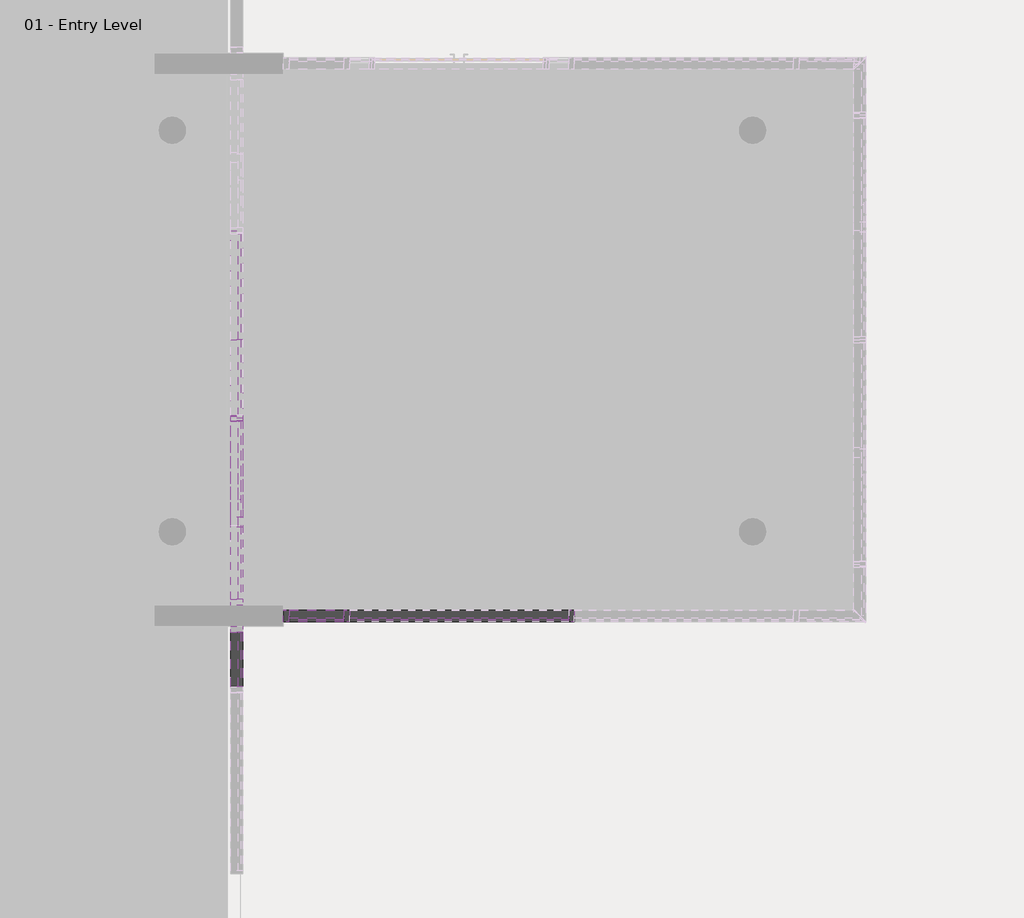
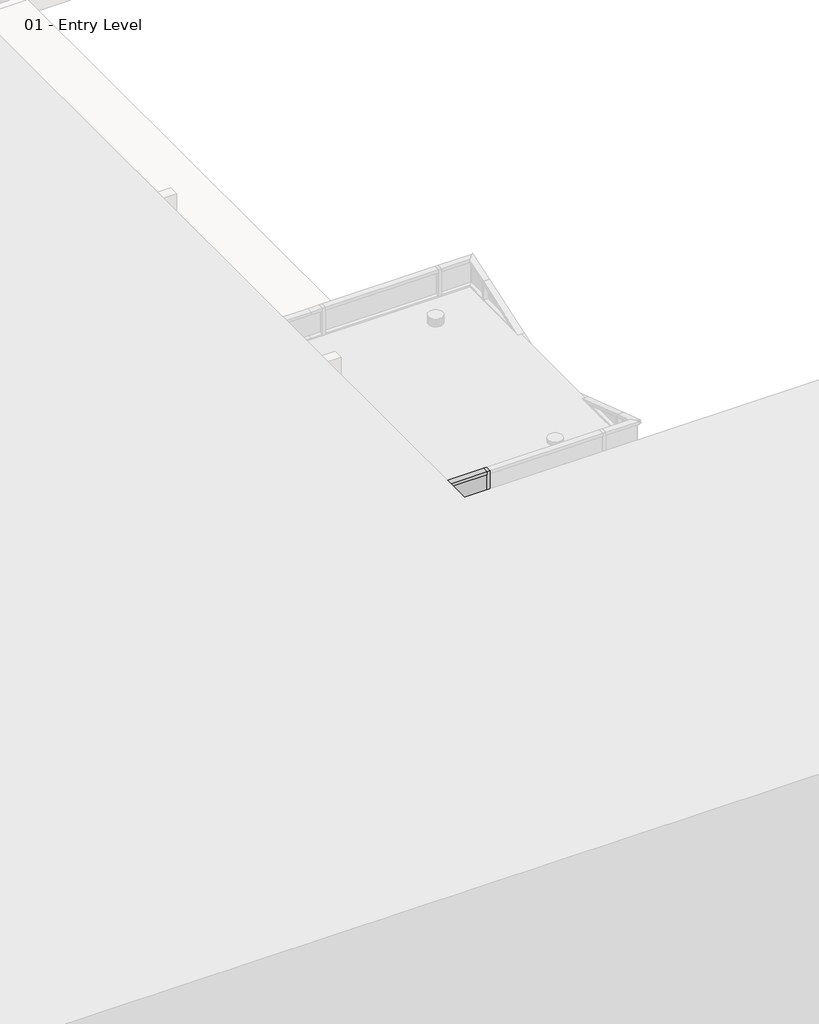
# One storey, part 13 of 34: 83 members, 41 plates.
"""IFC4 building model written with IfcOpenShell, lengths in millimetres."""

from ifc_helpers import new_model, si_unit, origin, place, context, project, spatial, transform, mapped, element, save
from components import member_2b49869a, member_75074519, member_4f18b2ac, member_7a85b04f, member_27fd6fac, member_2603a644, member_ab5e8816, member_dc06a31d, member_4c11d242, member_97c9a22f, member_29dce480, member_6e77e263, member_47bfaf8a, member_b2bde9e6, member_89bfb2f9, member_5aa65f11, member_b5354135, system_panel_glazed_f46199af, system_panel_glazed_10735cc6, system_panel_glazed_1b9d6098, system_panel_glazed_a2373be0, system_panel_glazed_70da479d, system_panel_glazed_6a6e56af, system_panel_glazed_a1864e1b, system_panel_glazed_99a26212, system_panel_glazed_a675a60c, system_panel_glazed_1068a10c, system_panel_glazed_a178916c, system_panel_glazed_0805a858, system_panel_glazed_439dd39a

model = new_model("IFC4")

# Units and contexts
model_context = context("Model", 3, world=origin())
ifc_project = project(units=[si_unit("LENGTHUNIT", "METRE", prefix="MILLI")], contexts=[model_context])

# Site, building, storey
site = spatial("IfcSite", under=ifc_project)
building = spatial("IfcBuilding", under=site)
storey = spatial("IfcBuildingStorey", under=building, Name="01 - Entry Level", Elevation=0.0)

# Members
placement = place(None, origin())
member_shape = member_2b49869a(model_context)
element("IfcMember", 1, ObjectType="Rectangular Mullion : 2.5\" x 5\" rectangular", at=placement, inside=storey, context=model_context, shape_type="MappedRepresentation", body=[
    mapped(member_shape, transform((17184.0207476, 18697.5, 9753.6), x_axis=(0.0, 1.0, 0.0), y_axis=(1.0, 0.0, 0.0), z_axis=(0.0, 0.0, -1.0))),
])
member_2_shape = member_75074519(model_context)
element("IfcMember", 2, ObjectType="Rectangular Mullion : 2.5\" x 5\" rectangular", at=placement, inside=storey, context=model_context, shape_type="MappedRepresentation", body=[
    mapped(member_2_shape, transform((17184.0207476, 16436.9, 9753.6), x_axis=(0.0, 1.0, 0.0), y_axis=(1.0, 0.0, 0.0), z_axis=(0.0, 0.0, -1.0))),
])
member_3_shape = member_4f18b2ac(model_context)
element("IfcMember", 3, ObjectType="Rectangular Mullion : 2.5\" x 5\" rectangular", at=placement, inside=storey, context=model_context, shape_type="MappedRepresentation", body=[
    mapped(member_3_shape, transform((17184.0207476, 18665.75, 10972.8), x_axis=(0.0, 0.0, 1.0), y_axis=(1.0, 0.0, 0.0), z_axis=(0.0, 1.0, 0.0))),
])
member_4_shape = member_7a85b04f(model_context)
element("IfcMember", 4, ObjectType="Rectangular Mullion : 2.5\" x 5\" rectangular", at=placement, inside=storey, context=model_context, shape_type="MappedRepresentation", body=[
    mapped(member_4_shape, transform((17184.0207476, 18665.75, 8534.4), x_axis=(0.0, 0.0, 1.0), y_axis=(1.0, 0.0, 0.0), z_axis=(0.0, 1.0, 0.0))),
])
element("IfcMember", 5, ObjectType="Rectangular Mullion : 2.5\" x 5\" rectangular", at=placement, inside=storey, context=model_context, shape_type="MappedRepresentation", body=[
    mapped(member_4_shape, transform((17184.0207476, 18665.75, 9753.6), x_axis=(0.0, 0.0, 1.0), y_axis=(1.0, 0.0, 0.0), z_axis=(0.0, 1.0, 0.0))),
])
element("IfcMember", 6, ObjectType="Rectangular Mullion : 2.5\" x 5\" rectangular", at=placement, inside=storey, context=model_context, shape_type="MappedRepresentation", body=[
    mapped(member_shape, transform((17184.0207476, 18697.5, 7315.2), x_axis=(0.0, 1.0, 0.0), y_axis=(1.0, 0.0, 0.0), z_axis=(0.0, 0.0, -1.0))),
])
element("IfcMember", 7, ObjectType="Rectangular Mullion : 2.5\" x 5\" rectangular", at=placement, inside=storey, context=model_context, shape_type="MappedRepresentation", body=[
    mapped(member_shape, transform((17184.0207476, 18697.5, 8534.4), x_axis=(0.0, 1.0, 0.0), y_axis=(1.0, 0.0, 0.0), z_axis=(0.0, 0.0, -1.0))),
])
member_5_shape = member_27fd6fac(model_context)
element("IfcMember", 8, ObjectType="Rectangular Mullion : 2.5\" x 5\" rectangular", at=placement, inside=storey, context=model_context, shape_type="MappedRepresentation", body=[
    mapped(member_5_shape, transform((17184.0207476, 19548.4, 6637.4207436), x_axis=(0.0, 0.3162277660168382, -0.9486832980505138), y_axis=(1.0, 0.0, 0.0), z_axis=(0.0, -0.9486832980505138, -0.3162277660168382))),
])
member_6_shape = member_2603a644(model_context)
element("IfcMember", 9, ObjectType="Rectangular Mullion : 2.5\" x 5\" rectangular", at=placement, inside=storey, context=model_context, shape_type="MappedRepresentation", body=[
    mapped(member_6_shape, transform((17184.0207476, 18697.5, 6921.0540769), x_axis=(0.0, -0.31622776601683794, -0.9486832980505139), y_axis=(1.0, 0.0, 0.0), z_axis=(0.0, -0.9486832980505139, 0.31622776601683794))),
])
member_7_shape = member_ab5e8816(model_context)
element("IfcMember", 10, ObjectType="Rectangular Mullion : 2.5\" x 5\" rectangular", at=placement, inside=storey, context=model_context, shape_type="MappedRepresentation", body=[
    mapped(member_7_shape, transform((17184.0207476, 17515.0622308, 7315.2), x_axis=(0.0, -0.31622776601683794, -0.9486832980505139), y_axis=(1.0, 0.0, 0.0), z_axis=(0.0, -0.9486832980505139, 0.31622776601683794))),
])
member_8_shape = member_dc06a31d(model_context)
element("IfcMember", 11, ObjectType="Rectangular Mullion : 2.5\" x 5\" rectangular", at=placement, inside=storey, context=model_context, shape_type="MappedRepresentation", body=[
    mapped(member_8_shape, transform((17184.0207476, 18665.75, 7315.2), x_axis=(0.0, 0.0, 1.0), y_axis=(1.0, 0.0, 0.0), z_axis=(0.0, 1.0, 0.0))),
])
member_9_shape = member_4c11d242(model_context)
element("IfcMember", 12, ObjectType="Rectangular Mullion : 2.5\" x 5\" rectangular", at=placement, inside=storey, context=model_context, shape_type="MappedRepresentation", body=[
    mapped(member_9_shape, transform((17184.0207476, 18697.5, 6921.0540769), x_axis=(0.0, 1.0, 0.0), y_axis=(1.0, 0.0, 0.0), z_axis=(0.0, 0.0, -1.0))),
])
element("IfcMember", 13, ObjectType="Rectangular Mullion : 2.5\" x 5\" rectangular", at=placement, inside=storey, context=model_context, shape_type="MappedRepresentation", body=[
    mapped(member_2_shape, transform((17184.0207476, 16436.9, 4876.8), x_axis=(0.0, 1.0, 0.0), y_axis=(1.0, 0.0, 0.0), z_axis=(0.0, 0.0, -1.0))),
])
element("IfcMember", 14, ObjectType="Rectangular Mullion : 2.5\" x 5\" rectangular", at=placement, inside=storey, context=model_context, shape_type="MappedRepresentation", body=[
    mapped(member_2_shape, transform((17184.0207476, 16436.9, 6096.0), x_axis=(0.0, 1.0, 0.0), y_axis=(1.0, 0.0, 0.0), z_axis=(0.0, 0.0, -1.0))),
])
element("IfcMember", 15, ObjectType="Rectangular Mullion : 2.5\" x 5\" rectangular", at=placement, inside=storey, context=model_context, shape_type="MappedRepresentation", body=[
    mapped(member_2_shape, transform((17184.0207476, 16436.9, 7315.2), x_axis=(0.0, 1.0, 0.0), y_axis=(1.0, 0.0, 0.0), z_axis=(0.0, 0.0, -1.0))),
])
element("IfcMember", 16, ObjectType="Rectangular Mullion : 2.5\" x 5\" rectangular", at=placement, inside=storey, context=model_context, shape_type="MappedRepresentation", body=[
    mapped(member_2_shape, transform((17184.0207476, 16436.9, 8534.4), x_axis=(0.0, 1.0, 0.0), y_axis=(1.0, 0.0, 0.0), z_axis=(0.0, 0.0, -1.0))),
])
element("IfcMember", 17, ObjectType="Rectangular Mullion : 2.5\" x 5\" rectangular", at=placement, inside=storey, context=model_context, shape_type="MappedRepresentation", body=[
    mapped(member_2_shape, transform((17184.0207476, 16665.5, 9753.6), x_axis=(0.0, -1.0, 0.0), y_axis=(1.0, 0.0, 0.0), z_axis=(0.0, 0.0, 1.0))),
])
member_10_shape = member_97c9a22f(model_context)
element("IfcMember", 18, ObjectType="Rectangular Mullion : 2.5\" x 5\" rectangular", at=placement, inside=storey, context=model_context, shape_type="MappedRepresentation", body=[
    mapped(member_10_shape, transform((17184.0207476, 16665.5, 8534.4), x_axis=(0.0, -1.0, 0.0), y_axis=(1.0, 0.0, 0.0), z_axis=(0.0, 0.0, 1.0))),
])
member_11_shape = member_29dce480(model_context)
element("IfcMember", 19, ObjectType="Rectangular Mullion : 2.5\" x 5\" rectangular", at=placement, inside=storey, context=model_context, shape_type="MappedRepresentation", body=[
    mapped(member_11_shape, transform((17184.0207476, 16373.4, 1219.2), x_axis=(0.0, 0.0, 1.0), y_axis=(1.0, 0.0, 0.0), z_axis=(0.0, 1.0, 0.0))),
])
element("IfcMember", 20, ObjectType="Rectangular Mullion : 2.5\" x 5\" rectangular", at=placement, inside=storey, context=model_context, shape_type="MappedRepresentation", body=[
    mapped(member_11_shape, transform((17184.0207476, 16373.4, 2438.4), x_axis=(0.0, 0.0, 1.0), y_axis=(1.0, 0.0, 0.0), z_axis=(0.0, 1.0, 0.0))),
])
element("IfcMember", 21, ObjectType="Rectangular Mullion : 2.5\" x 5\" rectangular", at=placement, inside=storey, context=model_context, shape_type="MappedRepresentation", body=[
    mapped(member_11_shape, transform((17184.0207476, 16373.4, 3657.6), x_axis=(0.0, 0.0, 1.0), y_axis=(1.0, 0.0, 0.0), z_axis=(0.0, 1.0, 0.0))),
])
element("IfcMember", 22, ObjectType="Rectangular Mullion : 2.5\" x 5\" rectangular", at=placement, inside=storey, context=model_context, shape_type="MappedRepresentation", body=[
    mapped(member_11_shape, transform((17184.0207476, 16373.4, 4876.8), x_axis=(0.0, 0.0, 1.0), y_axis=(1.0, 0.0, 0.0), z_axis=(0.0, 1.0, 0.0))),
])
element("IfcMember", 23, ObjectType="Rectangular Mullion : 2.5\" x 5\" rectangular", at=placement, inside=storey, context=model_context, shape_type="MappedRepresentation", body=[
    mapped(member_11_shape, transform((17184.0207476, 16373.4, 6096.0), x_axis=(0.0, 0.0, 1.0), y_axis=(1.0, 0.0, 0.0), z_axis=(0.0, 1.0, 0.0))),
])
element("IfcMember", 24, ObjectType="Rectangular Mullion : 2.5\" x 5\" rectangular", at=placement, inside=storey, context=model_context, shape_type="MappedRepresentation", body=[
    mapped(member_11_shape, transform((17184.0207476, 16373.4, 7315.2), x_axis=(0.0, 0.0, 1.0), y_axis=(1.0, 0.0, 0.0), z_axis=(0.0, 1.0, 0.0))),
])
element("IfcMember", 25, ObjectType="Rectangular Mullion : 2.5\" x 5\" rectangular", at=placement, inside=storey, context=model_context, shape_type="MappedRepresentation", body=[
    mapped(member_11_shape, transform((17184.0207476, 16373.4, 8534.4), x_axis=(0.0, 0.0, 1.0), y_axis=(1.0, 0.0, 0.0), z_axis=(0.0, 1.0, 0.0))),
])
element("IfcMember", 26, ObjectType="Rectangular Mullion : 2.5\" x 5\" rectangular", at=placement, inside=storey, context=model_context, shape_type="MappedRepresentation", body=[
    mapped(member_11_shape, transform((17184.0207476, 16373.4, 9753.6), x_axis=(0.0, 0.0, 1.0), y_axis=(1.0, 0.0, 0.0), z_axis=(0.0, 1.0, 0.0))),
])
member_12_shape = member_6e77e263(model_context)
element("IfcMember", 27, ObjectType="Rectangular Mullion : 2.5\" x 5\" rectangular", at=placement, inside=storey, context=model_context, shape_type="MappedRepresentation", body=[
    mapped(member_12_shape, transform((18379.5615197, 16551.2, 0.0), x_axis=(1.0, 0.0, 0.0), y_axis=(0.0, -1.0, 0.0), z_axis=(0.0, 0.0, -1.0))),
])
element("IfcMember", 28, ObjectType="Rectangular Mullion : 2.5\" x 5\" rectangular", at=placement, inside=storey, context=model_context, shape_type="MappedRepresentation", body=[
    mapped(member_12_shape, transform((20817.9615197, 16551.2, 0.0), x_axis=(1.0, 0.0, 0.0), y_axis=(0.0, -1.0, 0.0), z_axis=(0.0, 0.0, -1.0))),
])
element("IfcMember", 29, ObjectType="Rectangular Mullion : 2.5\" x 5\" rectangular", at=placement, inside=storey, context=model_context, shape_type="MappedRepresentation", body=[
    mapped(member_12_shape, transform((18379.5615197, 16551.2, 609.6), x_axis=(1.0, 0.0, 0.0), y_axis=(0.0, -1.0, 0.0), z_axis=(0.0, 0.0, -1.0))),
])
element("IfcMember", 30, ObjectType="Rectangular Mullion : 2.5\" x 5\" rectangular", at=placement, inside=storey, context=model_context, shape_type="MappedRepresentation", body=[
    mapped(member_12_shape, transform((20817.9615197, 16551.2, 609.6), x_axis=(1.0, 0.0, 0.0), y_axis=(0.0, -1.0, 0.0), z_axis=(0.0, 0.0, -1.0))),
])
element("IfcMember", 31, ObjectType="Rectangular Mullion : 2.5\" x 5\" rectangular", at=placement, inside=storey, context=model_context, shape_type="MappedRepresentation", body=[
    mapped(member_12_shape, transform((18379.5615197, 16551.2, 1219.2), x_axis=(1.0, 0.0, 0.0), y_axis=(0.0, -1.0, 0.0), z_axis=(0.0, 0.0, -1.0))),
])
element("IfcMember", 32, ObjectType="Rectangular Mullion : 2.5\" x 5\" rectangular", at=placement, inside=storey, context=model_context, shape_type="MappedRepresentation", body=[
    mapped(member_12_shape, transform((20817.9615197, 16551.2, 1219.2), x_axis=(1.0, 0.0, 0.0), y_axis=(0.0, -1.0, 0.0), z_axis=(0.0, 0.0, -1.0))),
])
element("IfcMember", 33, ObjectType="Rectangular Mullion : 2.5\" x 5\" rectangular", at=placement, inside=storey, context=model_context, shape_type="MappedRepresentation", body=[
    mapped(member_12_shape, transform((18379.5615197, 16551.2, 1828.8), x_axis=(1.0, 0.0, 0.0), y_axis=(0.0, -1.0, 0.0), z_axis=(0.0, 0.0, -1.0))),
])
element("IfcMember", 34, ObjectType="Rectangular Mullion : 2.5\" x 5\" rectangular", at=placement, inside=storey, context=model_context, shape_type="MappedRepresentation", body=[
    mapped(member_12_shape, transform((20817.9615197, 16551.2, 1828.8), x_axis=(1.0, 0.0, 0.0), y_axis=(0.0, -1.0, 0.0), z_axis=(0.0, 0.0, -1.0))),
])
element("IfcMember", 35, ObjectType="Rectangular Mullion : 2.5\" x 5\" rectangular", at=placement, inside=storey, context=model_context, shape_type="MappedRepresentation", body=[
    mapped(member_12_shape, transform((18379.5615197, 16551.2, 2438.4), x_axis=(1.0, 0.0, 0.0), y_axis=(0.0, -1.0, 0.0), z_axis=(0.0, 0.0, -1.0))),
])
element("IfcMember", 36, ObjectType="Rectangular Mullion : 2.5\" x 5\" rectangular", at=placement, inside=storey, context=model_context, shape_type="MappedRepresentation", body=[
    mapped(member_12_shape, transform((20817.9615197, 16551.2, 2438.4), x_axis=(1.0, 0.0, 0.0), y_axis=(0.0, -1.0, 0.0), z_axis=(0.0, 0.0, -1.0))),
])
element("IfcMember", 37, ObjectType="Rectangular Mullion : 2.5\" x 5\" rectangular", at=placement, inside=storey, context=model_context, shape_type="MappedRepresentation", body=[
    mapped(member_12_shape, transform((18379.5615197, 16551.2, 3048.0), x_axis=(1.0, 0.0, 0.0), y_axis=(0.0, -1.0, 0.0), z_axis=(0.0, 0.0, -1.0))),
])
element("IfcMember", 38, ObjectType="Rectangular Mullion : 2.5\" x 5\" rectangular", at=placement, inside=storey, context=model_context, shape_type="MappedRepresentation", body=[
    mapped(member_12_shape, transform((20817.9615197, 16551.2, 3048.0), x_axis=(1.0, 0.0, 0.0), y_axis=(0.0, -1.0, 0.0), z_axis=(0.0, 0.0, -1.0))),
])
element("IfcMember", 39, ObjectType="Rectangular Mullion : 2.5\" x 5\" rectangular", at=placement, inside=storey, context=model_context, shape_type="MappedRepresentation", body=[
    mapped(member_12_shape, transform((18379.5615197, 16551.2, 3657.6), x_axis=(1.0, 0.0, 0.0), y_axis=(0.0, -1.0, 0.0), z_axis=(0.0, 0.0, -1.0))),
])
element("IfcMember", 40, ObjectType="Rectangular Mullion : 2.5\" x 5\" rectangular", at=placement, inside=storey, context=model_context, shape_type="MappedRepresentation", body=[
    mapped(member_12_shape, transform((18379.5615197, 16551.2, 4267.2), x_axis=(1.0, 0.0, 0.0), y_axis=(0.0, -1.0, 0.0), z_axis=(0.0, 0.0, -1.0))),
])
element("IfcMember", 41, ObjectType="Rectangular Mullion : 2.5\" x 5\" rectangular", at=placement, inside=storey, context=model_context, shape_type="MappedRepresentation", body=[
    mapped(member_12_shape, transform((18379.5615197, 16551.2, 4876.8), x_axis=(1.0, 0.0, 0.0), y_axis=(0.0, -1.0, 0.0), z_axis=(0.0, 0.0, -1.0))),
])
element("IfcMember", 42, ObjectType="Rectangular Mullion : 2.5\" x 5\" rectangular", at=placement, inside=storey, context=model_context, shape_type="MappedRepresentation", body=[
    mapped(member_12_shape, transform((18379.5615197, 16551.2, 5486.4), x_axis=(1.0, 0.0, 0.0), y_axis=(0.0, -1.0, 0.0), z_axis=(0.0, 0.0, -1.0))),
])
element("IfcMember", 43, ObjectType="Rectangular Mullion : 2.5\" x 5\" rectangular", at=placement, inside=storey, context=model_context, shape_type="MappedRepresentation", body=[
    mapped(member_12_shape, transform((18379.5615197, 16551.2, 6096.0), x_axis=(1.0, 0.0, 0.0), y_axis=(0.0, -1.0, 0.0), z_axis=(0.0, 0.0, -1.0))),
])
element("IfcMember", 44, ObjectType="Rectangular Mullion : 2.5\" x 5\" rectangular", at=placement, inside=storey, context=model_context, shape_type="MappedRepresentation", body=[
    mapped(member_12_shape, transform((20817.9615197, 16551.2, 3657.6), x_axis=(1.0, 0.0, 0.0), y_axis=(0.0, -1.0, 0.0), z_axis=(0.0, 0.0, -1.0))),
])
element("IfcMember", 45, ObjectType="Rectangular Mullion : 2.5\" x 5\" rectangular", at=placement, inside=storey, context=model_context, shape_type="MappedRepresentation", body=[
    mapped(member_12_shape, transform((20817.9615197, 16551.2, 4267.2), x_axis=(1.0, 0.0, 0.0), y_axis=(0.0, -1.0, 0.0), z_axis=(0.0, 0.0, -1.0))),
])
element("IfcMember", 46, ObjectType="Rectangular Mullion : 2.5\" x 5\" rectangular", at=placement, inside=storey, context=model_context, shape_type="MappedRepresentation", body=[
    mapped(member_12_shape, transform((20817.9615197, 16551.2, 4876.8), x_axis=(1.0, 0.0, 0.0), y_axis=(0.0, -1.0, 0.0), z_axis=(0.0, 0.0, -1.0))),
])
element("IfcMember", 47, ObjectType="Rectangular Mullion : 2.5\" x 5\" rectangular", at=placement, inside=storey, context=model_context, shape_type="MappedRepresentation", body=[
    mapped(member_12_shape, transform((20817.9615197, 16551.2, 5486.4), x_axis=(1.0, 0.0, 0.0), y_axis=(0.0, -1.0, 0.0), z_axis=(0.0, 0.0, -1.0))),
])
element("IfcMember", 48, ObjectType="Rectangular Mullion : 2.5\" x 5\" rectangular", at=placement, inside=storey, context=model_context, shape_type="MappedRepresentation", body=[
    mapped(member_12_shape, transform((20817.9615197, 16551.2, 6096.0), x_axis=(1.0, 0.0, 0.0), y_axis=(0.0, -1.0, 0.0), z_axis=(0.0, 0.0, -1.0))),
])
member_13_shape = member_47bfaf8a(model_context)
element("IfcMember", 49, ObjectType="Rectangular Mullion : 2.5\" x 5\" rectangular", at=placement, inside=storey, context=model_context, shape_type="MappedRepresentation", body=[
    mapped(member_13_shape, transform((17688.9115197, 16551.2, 609.6), x_axis=(-1.0, 0.0, 0.0), y_axis=(0.0, -1.0, 0.0), z_axis=(0.0, 0.0, 1.0))),
])
element("IfcMember", 50, ObjectType="Rectangular Mullion : 2.5\" x 5\" rectangular", at=placement, inside=storey, context=model_context, shape_type="MappedRepresentation", body=[
    mapped(member_13_shape, transform((17688.9115197, 16551.2, 1219.2), x_axis=(-1.0, 0.0, 0.0), y_axis=(0.0, -1.0, 0.0), z_axis=(0.0, 0.0, 1.0))),
])
element("IfcMember", 51, ObjectType="Rectangular Mullion : 2.5\" x 5\" rectangular", at=placement, inside=storey, context=model_context, shape_type="MappedRepresentation", body=[
    mapped(member_13_shape, transform((17688.9115197, 16551.2, 1828.8), x_axis=(-1.0, 0.0, 0.0), y_axis=(0.0, -1.0, 0.0), z_axis=(0.0, 0.0, 1.0))),
])
element("IfcMember", 52, ObjectType="Rectangular Mullion : 2.5\" x 5\" rectangular", at=placement, inside=storey, context=model_context, shape_type="MappedRepresentation", body=[
    mapped(member_13_shape, transform((17688.9115197, 16551.2, 2438.4), x_axis=(-1.0, 0.0, 0.0), y_axis=(0.0, -1.0, 0.0), z_axis=(0.0, 0.0, 1.0))),
])
element("IfcMember", 53, ObjectType="Rectangular Mullion : 2.5\" x 5\" rectangular", at=placement, inside=storey, context=model_context, shape_type="MappedRepresentation", body=[
    mapped(member_13_shape, transform((17688.9115197, 16551.2, 3048.0), x_axis=(-1.0, 0.0, 0.0), y_axis=(0.0, -1.0, 0.0), z_axis=(0.0, 0.0, 1.0))),
])
element("IfcMember", 54, ObjectType="Rectangular Mullion : 2.5\" x 5\" rectangular", at=placement, inside=storey, context=model_context, shape_type="MappedRepresentation", body=[
    mapped(member_13_shape, transform((17688.9115197, 16551.2, 3657.6), x_axis=(-1.0, 0.0, 0.0), y_axis=(0.0, -1.0, 0.0), z_axis=(0.0, 0.0, 1.0))),
])
element("IfcMember", 55, ObjectType="Rectangular Mullion : 2.5\" x 5\" rectangular", at=placement, inside=storey, context=model_context, shape_type="MappedRepresentation", body=[
    mapped(member_13_shape, transform((17688.9115197, 16551.2, 4267.2), x_axis=(-1.0, 0.0, 0.0), y_axis=(0.0, -1.0, 0.0), z_axis=(0.0, 0.0, 1.0))),
])
element("IfcMember", 56, ObjectType="Rectangular Mullion : 2.5\" x 5\" rectangular", at=placement, inside=storey, context=model_context, shape_type="MappedRepresentation", body=[
    mapped(member_13_shape, transform((17688.9115197, 16551.2, 4876.8), x_axis=(-1.0, 0.0, 0.0), y_axis=(0.0, -1.0, 0.0), z_axis=(0.0, 0.0, 1.0))),
])
element("IfcMember", 57, ObjectType="Rectangular Mullion : 2.5\" x 5\" rectangular", at=placement, inside=storey, context=model_context, shape_type="MappedRepresentation", body=[
    mapped(member_13_shape, transform((17688.9115197, 16551.2, 5486.4), x_axis=(-1.0, 0.0, 0.0), y_axis=(0.0, -1.0, 0.0), z_axis=(0.0, 0.0, 1.0))),
])
element("IfcMember", 58, ObjectType="Rectangular Mullion : 2.5\" x 5\" rectangular", at=placement, inside=storey, context=model_context, shape_type="MappedRepresentation", body=[
    mapped(member_13_shape, transform((17688.9115197, 16551.2, 6096.0), x_axis=(-1.0, 0.0, 0.0), y_axis=(0.0, -1.0, 0.0), z_axis=(0.0, 0.0, 1.0))),
])
element("IfcMember", 59, ObjectType="Rectangular Mullion : 2.5\" x 5\" rectangular", at=placement, inside=storey, context=model_context, shape_type="MappedRepresentation", body=[
    mapped(member_13_shape, transform((17688.9115197, 16551.2, 6705.6), x_axis=(-1.0, 0.0, 0.0), y_axis=(0.0, -1.0, 0.0), z_axis=(0.0, 0.0, 1.0))),
])
member_14_shape = member_b2bde9e6(model_context)
element("IfcMember", 60, ObjectType="Rectangular Mullion : 2.5\" x 5\" rectangular", at=placement, inside=storey, context=model_context, shape_type="MappedRepresentation", body=[
    mapped(member_14_shape, transform((18411.3115197, 16551.2, 0.0), x_axis=(0.0, 0.0, -1.0), y_axis=(0.0, -1.0, 0.0), z_axis=(-1.0, 0.0, 0.0))),
])
element("IfcMember", 61, ObjectType="Rectangular Mullion : 2.5\" x 5\" rectangular", at=placement, inside=storey, context=model_context, shape_type="MappedRepresentation", body=[
    mapped(member_14_shape, transform((20849.7115197, 16551.2, 0.0), x_axis=(0.0, 0.0, -1.0), y_axis=(0.0, -1.0, 0.0), z_axis=(-1.0, 0.0, 0.0))),
])
member_15_shape = member_89bfb2f9(model_context)
element("IfcMember", 62, ObjectType="Rectangular Mullion : 2.5\" x 5\" rectangular", at=placement, inside=storey, context=model_context, shape_type="MappedRepresentation", body=[
    mapped(member_15_shape, transform((20786.2115197, 16551.2, 609.6), x_axis=(0.0, 0.0, 1.0), y_axis=(0.0, -1.0, 0.0), z_axis=(1.0, 0.0, 0.0))),
])
element("IfcMember", 63, ObjectType="Rectangular Mullion : 2.5\" x 5\" rectangular", at=placement, inside=storey, context=model_context, shape_type="MappedRepresentation", body=[
    mapped(member_15_shape, transform((20786.2115197, 16551.2, 1219.2), x_axis=(0.0, 0.0, 1.0), y_axis=(0.0, -1.0, 0.0), z_axis=(1.0, 0.0, 0.0))),
])
element("IfcMember", 64, ObjectType="Rectangular Mullion : 2.5\" x 5\" rectangular", at=placement, inside=storey, context=model_context, shape_type="MappedRepresentation", body=[
    mapped(member_15_shape, transform((20786.2115197, 16551.2, 1828.8), x_axis=(0.0, 0.0, 1.0), y_axis=(0.0, -1.0, 0.0), z_axis=(1.0, 0.0, 0.0))),
])
element("IfcMember", 65, ObjectType="Rectangular Mullion : 2.5\" x 5\" rectangular", at=placement, inside=storey, context=model_context, shape_type="MappedRepresentation", body=[
    mapped(member_15_shape, transform((20786.2115197, 16551.2, 2438.4), x_axis=(0.0, 0.0, 1.0), y_axis=(0.0, -1.0, 0.0), z_axis=(1.0, 0.0, 0.0))),
])
element("IfcMember", 66, ObjectType="Rectangular Mullion : 2.5\" x 5\" rectangular", at=placement, inside=storey, context=model_context, shape_type="MappedRepresentation", body=[
    mapped(member_15_shape, transform((20786.2115197, 16551.2, 3048.0), x_axis=(0.0, 0.0, 1.0), y_axis=(0.0, -1.0, 0.0), z_axis=(1.0, 0.0, 0.0))),
])
element("IfcMember", 67, ObjectType="Rectangular Mullion : 2.5\" x 5\" rectangular", at=placement, inside=storey, context=model_context, shape_type="MappedRepresentation", body=[
    mapped(member_15_shape, transform((20786.2115197, 16551.2, 3657.6), x_axis=(0.0, 0.0, 1.0), y_axis=(0.0, -1.0, 0.0), z_axis=(1.0, 0.0, 0.0))),
])
element("IfcMember", 68, ObjectType="Rectangular Mullion : 2.5\" x 5\" rectangular", at=placement, inside=storey, context=model_context, shape_type="MappedRepresentation", body=[
    mapped(member_15_shape, transform((20786.2115197, 16551.2, 4267.2), x_axis=(0.0, 0.0, 1.0), y_axis=(0.0, -1.0, 0.0), z_axis=(1.0, 0.0, 0.0))),
])
member_16_shape = member_5aa65f11(model_context)
element("IfcMember", 69, ObjectType="Rectangular Mullion : 2.5\" x 5\" rectangular", at=placement, inside=storey, context=model_context, shape_type="MappedRepresentation", body=[
    mapped(member_16_shape, transform((18347.8115197, 16551.2, 7315.2), x_axis=(0.0, 0.0, 1.0), y_axis=(0.0, -1.0, 0.0), z_axis=(1.0, 0.0, 0.0))),
])
element("IfcMember", 70, ObjectType="Rectangular Mullion : 2.5\" x 5\" rectangular", at=placement, inside=storey, context=model_context, shape_type="MappedRepresentation", body=[
    mapped(member_14_shape, transform((20786.2115197, 16551.2, 7315.2), x_axis=(0.0, 0.0, 1.0), y_axis=(0.0, -1.0, 0.0), z_axis=(1.0, 0.0, 0.0))),
])
member_17_shape = member_b5354135(model_context)
element("IfcMember", 71, ObjectType="Rectangular Mullion : 2.5\" x 5\" rectangular", at=placement, inside=storey, context=model_context, shape_type="MappedRepresentation", body=[
    mapped(member_17_shape, transform((18347.8115197, 16551.2, 609.6), x_axis=(0.0, 0.0, 1.0), y_axis=(0.0, -1.0, 0.0), z_axis=(1.0, 0.0, 0.0))),
])
element("IfcMember", 72, ObjectType="Rectangular Mullion : 2.5\" x 5\" rectangular", at=placement, inside=storey, context=model_context, shape_type="MappedRepresentation", body=[
    mapped(member_17_shape, transform((18347.8115197, 16551.2, 1219.2), x_axis=(0.0, 0.0, 1.0), y_axis=(0.0, -1.0, 0.0), z_axis=(1.0, 0.0, 0.0))),
])
element("IfcMember", 73, ObjectType="Rectangular Mullion : 2.5\" x 5\" rectangular", at=placement, inside=storey, context=model_context, shape_type="MappedRepresentation", body=[
    mapped(member_17_shape, transform((18347.8115197, 16551.2, 1828.8), x_axis=(0.0, 0.0, 1.0), y_axis=(0.0, -1.0, 0.0), z_axis=(1.0, 0.0, 0.0))),
])
element("IfcMember", 74, ObjectType="Rectangular Mullion : 2.5\" x 5\" rectangular", at=placement, inside=storey, context=model_context, shape_type="MappedRepresentation", body=[
    mapped(member_17_shape, transform((18347.8115197, 16551.2, 2438.4), x_axis=(0.0, 0.0, 1.0), y_axis=(0.0, -1.0, 0.0), z_axis=(1.0, 0.0, 0.0))),
])
element("IfcMember", 75, ObjectType="Rectangular Mullion : 2.5\" x 5\" rectangular", at=placement, inside=storey, context=model_context, shape_type="MappedRepresentation", body=[
    mapped(member_17_shape, transform((18347.8115197, 16551.2, 3048.0), x_axis=(0.0, 0.0, 1.0), y_axis=(0.0, -1.0, 0.0), z_axis=(1.0, 0.0, 0.0))),
])
element("IfcMember", 76, ObjectType="Rectangular Mullion : 2.5\" x 5\" rectangular", at=placement, inside=storey, context=model_context, shape_type="MappedRepresentation", body=[
    mapped(member_17_shape, transform((18347.8115197, 16551.2, 3657.6), x_axis=(0.0, 0.0, 1.0), y_axis=(0.0, -1.0, 0.0), z_axis=(1.0, 0.0, 0.0))),
])
element("IfcMember", 77, ObjectType="Rectangular Mullion : 2.5\" x 5\" rectangular", at=placement, inside=storey, context=model_context, shape_type="MappedRepresentation", body=[
    mapped(member_17_shape, transform((18347.8115197, 16551.2, 4267.2), x_axis=(0.0, 0.0, 1.0), y_axis=(0.0, -1.0, 0.0), z_axis=(1.0, 0.0, 0.0))),
])
element("IfcMember", 78, ObjectType="Rectangular Mullion : 2.5\" x 5\" rectangular", at=placement, inside=storey, context=model_context, shape_type="MappedRepresentation", body=[
    mapped(member_17_shape, transform((18347.8115197, 16551.2, 4876.8), x_axis=(0.0, 0.0, 1.0), y_axis=(0.0, -1.0, 0.0), z_axis=(1.0, 0.0, 0.0))),
])
element("IfcMember", 79, ObjectType="Rectangular Mullion : 2.5\" x 5\" rectangular", at=placement, inside=storey, context=model_context, shape_type="MappedRepresentation", body=[
    mapped(member_17_shape, transform((18347.8115197, 16551.2, 5486.4), x_axis=(0.0, 0.0, 1.0), y_axis=(0.0, -1.0, 0.0), z_axis=(1.0, 0.0, 0.0))),
])
element("IfcMember", 80, ObjectType="Rectangular Mullion : 2.5\" x 5\" rectangular", at=placement, inside=storey, context=model_context, shape_type="MappedRepresentation", body=[
    mapped(member_17_shape, transform((18347.8115197, 16551.2, 6096.0), x_axis=(0.0, 0.0, 1.0), y_axis=(0.0, -1.0, 0.0), z_axis=(1.0, 0.0, 0.0))),
])
element("IfcMember", 81, ObjectType="Rectangular Mullion : 2.5\" x 5\" rectangular", at=placement, inside=storey, context=model_context, shape_type="MappedRepresentation", body=[
    mapped(member_17_shape, transform((18347.8115197, 16551.2, 6705.6), x_axis=(0.0, 0.0, 1.0), y_axis=(0.0, -1.0, 0.0), z_axis=(1.0, 0.0, 0.0))),
])
element("IfcMember", 82, ObjectType="Rectangular Mullion : 2.5\" x 5\" rectangular", at=placement, inside=storey, context=model_context, shape_type="MappedRepresentation", body=[
    mapped(member_12_shape, transform((18379.5615197, 16551.2, 6705.6), x_axis=(1.0, 0.0, 0.0), y_axis=(0.0, -1.0, 0.0), z_axis=(0.0, 0.0, -1.0))),
])
element("IfcMember", 83, ObjectType="Rectangular Mullion : 2.5\" x 5\" rectangular", at=placement, inside=storey, context=model_context, shape_type="MappedRepresentation", body=[
    mapped(member_12_shape, transform((20817.9615197, 16551.2, 6705.6), x_axis=(1.0, 0.0, 0.0), y_axis=(0.0, -1.0, 0.0), z_axis=(0.0, 0.0, -1.0))),
])

# Plates
system_panel_glazed_shape = system_panel_glazed_f46199af(model_context)
element("IfcPlate", 84, ObjectType="System Panel : Glazed", at=placement, inside=storey, context=model_context, shape_type="MappedRepresentation", body=[
    mapped(system_panel_glazed_shape, transform((17184.0207476, 17697.375, 9785.35), x_axis=(0.0, 1.0, 0.0), y_axis=(-1.0, 0.0, 0.0), z_axis=(0.0, 0.0, 1.0))),
])
system_panel_glazed_2_shape = system_panel_glazed_10735cc6(model_context)
element("IfcPlate", 85, ObjectType="System Panel : Glazed", at=placement, inside=storey, context=model_context, shape_type="MappedRepresentation", body=[
    mapped(system_panel_glazed_2_shape, transform((17184.0207476, 18238.4334311, 6998.5722874), x_axis=(0.0, 1.0, 0.0), y_axis=(-1.0, 0.0, 0.0), z_axis=(0.0, 0.0, 1.0))),
])
system_panel_glazed_3_shape = system_panel_glazed_1b9d6098(model_context)
element("IfcPlate", 86, ObjectType="System Panel : Glazed", at=placement, inside=storey, context=model_context, shape_type="MappedRepresentation", body=[
    mapped(system_panel_glazed_3_shape, transform((17184.0207476, 19713.5, 9785.35), x_axis=(0.0, 1.0, 0.0), y_axis=(-1.0, 0.0, 0.0), z_axis=(0.0, 0.0, 1.0))),
])
system_panel_glazed_4_shape = system_panel_glazed_a2373be0(model_context)
element("IfcPlate", 87, ObjectType="System Panel : Glazed", at=placement, inside=storey, context=model_context, shape_type="MappedRepresentation", body=[
    mapped(system_panel_glazed_4_shape, transform((17184.0207476, 17697.375, 8566.15), x_axis=(0.0, 1.0, 0.0), y_axis=(-1.0, 0.0, 0.0), z_axis=(0.0, 0.0, 1.0))),
])
system_panel_glazed_5_shape = system_panel_glazed_70da479d(model_context)
element("IfcPlate", 88, ObjectType="System Panel : Glazed", at=placement, inside=storey, context=model_context, shape_type="MappedRepresentation", body=[
    mapped(system_panel_glazed_5_shape, transform((17184.0207476, 19713.5, 7346.95), x_axis=(0.0, 1.0, 0.0), y_axis=(-1.0, 0.0, 0.0), z_axis=(0.0, 0.0, 1.0))),
])
element("IfcPlate", 89, ObjectType="System Panel : Glazed", at=placement, inside=storey, context=model_context, shape_type="MappedRepresentation", body=[
    mapped(system_panel_glazed_5_shape, transform((17184.0207476, 19713.5, 8566.15), x_axis=(0.0, 1.0, 0.0), y_axis=(-1.0, 0.0, 0.0), z_axis=(0.0, 0.0, 1.0))),
])
system_panel_glazed_6_shape = system_panel_glazed_6a6e56af(model_context)
element("IfcPlate", 90, ObjectType="System Panel : Glazed", at=placement, inside=storey, context=model_context, shape_type="MappedRepresentation", body=[
    mapped(system_panel_glazed_6_shape, transform((17184.0207476, 19713.5, 6704.3556207), x_axis=(0.0, 1.0, 0.0), y_axis=(-1.0, 0.0, 0.0), z_axis=(0.0, 0.0, 1.0))),
])
system_panel_glazed_7_shape = system_panel_glazed_a1864e1b(model_context)
element("IfcPlate", 91, ObjectType="System Panel : Glazed", at=placement, inside=storey, context=model_context, shape_type="MappedRepresentation", body=[
    mapped(system_panel_glazed_7_shape, transform((17184.0207476, 17697.375, 7346.95), x_axis=(0.0, 1.0, 0.0), y_axis=(-1.0, 0.0, 0.0), z_axis=(0.0, 0.0, 1.0))),
])
system_panel_glazed_8_shape = system_panel_glazed_99a26212(model_context)
element("IfcPlate", 92, ObjectType="System Panel : Glazed", at=placement, inside=storey, context=model_context, shape_type="MappedRepresentation", body=[
    mapped(system_panel_glazed_8_shape, transform((17184.0207476, 16078.125, 63.5), x_axis=(0.0, 1.0, 0.0), y_axis=(-1.0, 0.0, 0.0), z_axis=(0.0, 0.0, 1.0))),
])
element("IfcPlate", 93, ObjectType="System Panel : Glazed", at=placement, inside=storey, context=model_context, shape_type="MappedRepresentation", body=[
    mapped(system_panel_glazed_8_shape, transform((17184.0207476, 16078.125, 9785.35), x_axis=(0.0, 1.0, 0.0), y_axis=(-1.0, 0.0, 0.0), z_axis=(0.0, 0.0, 1.0))),
])
system_panel_glazed_9_shape = system_panel_glazed_a675a60c(model_context)
element("IfcPlate", 94, ObjectType="System Panel : Glazed", at=placement, inside=storey, context=model_context, shape_type="MappedRepresentation", body=[
    mapped(system_panel_glazed_9_shape, transform((17184.0207476, 16078.125, 1250.95), x_axis=(0.0, 1.0, 0.0), y_axis=(-1.0, 0.0, 0.0), z_axis=(0.0, 0.0, 1.0))),
])
element("IfcPlate", 95, ObjectType="System Panel : Glazed", at=placement, inside=storey, context=model_context, shape_type="MappedRepresentation", body=[
    mapped(system_panel_glazed_9_shape, transform((17184.0207476, 16078.125, 2470.15), x_axis=(0.0, 1.0, 0.0), y_axis=(-1.0, 0.0, 0.0), z_axis=(0.0, 0.0, 1.0))),
])
element("IfcPlate", 96, ObjectType="System Panel : Glazed", at=placement, inside=storey, context=model_context, shape_type="MappedRepresentation", body=[
    mapped(system_panel_glazed_9_shape, transform((17184.0207476, 16078.125, 3689.35), x_axis=(0.0, 1.0, 0.0), y_axis=(-1.0, 0.0, 0.0), z_axis=(0.0, 0.0, 1.0))),
])
element("IfcPlate", 97, ObjectType="System Panel : Glazed", at=placement, inside=storey, context=model_context, shape_type="MappedRepresentation", body=[
    mapped(system_panel_glazed_9_shape, transform((17184.0207476, 16078.125, 4908.55), x_axis=(0.0, 1.0, 0.0), y_axis=(-1.0, 0.0, 0.0), z_axis=(0.0, 0.0, 1.0))),
])
element("IfcPlate", 98, ObjectType="System Panel : Glazed", at=placement, inside=storey, context=model_context, shape_type="MappedRepresentation", body=[
    mapped(system_panel_glazed_9_shape, transform((17184.0207476, 16078.125, 6127.75), x_axis=(0.0, 1.0, 0.0), y_axis=(-1.0, 0.0, 0.0), z_axis=(0.0, 0.0, 1.0))),
])
element("IfcPlate", 99, ObjectType="System Panel : Glazed", at=placement, inside=storey, context=model_context, shape_type="MappedRepresentation", body=[
    mapped(system_panel_glazed_9_shape, transform((17184.0207476, 16078.125, 7346.95), x_axis=(0.0, 1.0, 0.0), y_axis=(-1.0, 0.0, 0.0), z_axis=(0.0, 0.0, 1.0))),
])
element("IfcPlate", 100, ObjectType="System Panel : Glazed", at=placement, inside=storey, context=model_context, shape_type="MappedRepresentation", body=[
    mapped(system_panel_glazed_9_shape, transform((17184.0207476, 16078.125, 8566.15), x_axis=(0.0, 1.0, 0.0), y_axis=(-1.0, 0.0, 0.0), z_axis=(0.0, 0.0, 1.0))),
])
system_panel_glazed_10_shape = system_panel_glazed_1068a10c(model_context)
element("IfcPlate", 101, ObjectType="System Panel : Glazed", at=placement, inside=storey, context=model_context, shape_type="MappedRepresentation", body=[
    mapped(system_panel_glazed_10_shape, transform((19598.7615197, 16551.2, 63.5), x_axis=(1.0, 0.0, 0.0), y_axis=(0.0, 1.0, 0.0), z_axis=(0.0, 0.0, 1.0))),
])
element("IfcPlate", 102, ObjectType="System Panel : Glazed", at=placement, inside=storey, context=model_context, shape_type="MappedRepresentation", body=[
    mapped(system_panel_glazed_10_shape, transform((19598.7615197, 16551.2, 6737.35), x_axis=(1.0, 0.0, 0.0), y_axis=(0.0, 1.0, 0.0), z_axis=(0.0, 0.0, 1.0))),
])
system_panel_glazed_11_shape = system_panel_glazed_a178916c(model_context)
element("IfcPlate", 103, ObjectType="System Panel : Glazed", at=placement, inside=storey, context=model_context, shape_type="MappedRepresentation", body=[
    mapped(system_panel_glazed_11_shape, transform((19598.7615197, 16551.2, 641.35), x_axis=(1.0, 0.0, 0.0), y_axis=(0.0, 1.0, 0.0), z_axis=(0.0, 0.0, 1.0))),
])
element("IfcPlate", 104, ObjectType="System Panel : Glazed", at=placement, inside=storey, context=model_context, shape_type="MappedRepresentation", body=[
    mapped(system_panel_glazed_11_shape, transform((19598.7615197, 16551.2, 1250.95), x_axis=(1.0, 0.0, 0.0), y_axis=(0.0, 1.0, 0.0), z_axis=(0.0, 0.0, 1.0))),
])
element("IfcPlate", 105, ObjectType="System Panel : Glazed", at=placement, inside=storey, context=model_context, shape_type="MappedRepresentation", body=[
    mapped(system_panel_glazed_11_shape, transform((19598.7615197, 16551.2, 1860.55), x_axis=(1.0, 0.0, 0.0), y_axis=(0.0, 1.0, 0.0), z_axis=(0.0, 0.0, 1.0))),
])
element("IfcPlate", 106, ObjectType="System Panel : Glazed", at=placement, inside=storey, context=model_context, shape_type="MappedRepresentation", body=[
    mapped(system_panel_glazed_11_shape, transform((19598.7615197, 16551.2, 2470.15), x_axis=(1.0, 0.0, 0.0), y_axis=(0.0, 1.0, 0.0), z_axis=(0.0, 0.0, 1.0))),
])
element("IfcPlate", 107, ObjectType="System Panel : Glazed", at=placement, inside=storey, context=model_context, shape_type="MappedRepresentation", body=[
    mapped(system_panel_glazed_11_shape, transform((19598.7615197, 16551.2, 3079.75), x_axis=(1.0, 0.0, 0.0), y_axis=(0.0, 1.0, 0.0), z_axis=(0.0, 0.0, 1.0))),
])
element("IfcPlate", 108, ObjectType="System Panel : Glazed", at=placement, inside=storey, context=model_context, shape_type="MappedRepresentation", body=[
    mapped(system_panel_glazed_11_shape, transform((19598.7615197, 16551.2, 3689.35), x_axis=(1.0, 0.0, 0.0), y_axis=(0.0, 1.0, 0.0), z_axis=(0.0, 0.0, 1.0))),
])
element("IfcPlate", 109, ObjectType="System Panel : Glazed", at=placement, inside=storey, context=model_context, shape_type="MappedRepresentation", body=[
    mapped(system_panel_glazed_11_shape, transform((19598.7615197, 16551.2, 4298.95), x_axis=(1.0, 0.0, 0.0), y_axis=(0.0, 1.0, 0.0), z_axis=(0.0, 0.0, 1.0))),
])
element("IfcPlate", 110, ObjectType="System Panel : Glazed", at=placement, inside=storey, context=model_context, shape_type="MappedRepresentation", body=[
    mapped(system_panel_glazed_11_shape, transform((19598.7615197, 16551.2, 4908.55), x_axis=(1.0, 0.0, 0.0), y_axis=(0.0, 1.0, 0.0), z_axis=(0.0, 0.0, 1.0))),
])
element("IfcPlate", 111, ObjectType="System Panel : Glazed", at=placement, inside=storey, context=model_context, shape_type="MappedRepresentation", body=[
    mapped(system_panel_glazed_11_shape, transform((19598.7615197, 16551.2, 5518.15), x_axis=(1.0, 0.0, 0.0), y_axis=(0.0, 1.0, 0.0), z_axis=(0.0, 0.0, 1.0))),
])
element("IfcPlate", 112, ObjectType="System Panel : Glazed", at=placement, inside=storey, context=model_context, shape_type="MappedRepresentation", body=[
    mapped(system_panel_glazed_11_shape, transform((19598.7615197, 16551.2, 6127.75), x_axis=(1.0, 0.0, 0.0), y_axis=(0.0, 1.0, 0.0), z_axis=(0.0, 0.0, 1.0))),
])
system_panel_glazed_12_shape = system_panel_glazed_0805a858(model_context)
element("IfcPlate", 113, ObjectType="System Panel : Glazed", at=placement, inside=storey, context=model_context, shape_type="MappedRepresentation", body=[
    mapped(system_panel_glazed_12_shape, transform((18050.1115197, 16551.2, 63.5), x_axis=(1.0, 0.0, 0.0), y_axis=(0.0, 1.0, 0.0), z_axis=(0.0, 0.0, 1.0))),
])
element("IfcPlate", 114, ObjectType="System Panel : Glazed", at=placement, inside=storey, context=model_context, shape_type="MappedRepresentation", body=[
    mapped(system_panel_glazed_12_shape, transform((18050.1115197, 16551.2, 6737.35), x_axis=(1.0, 0.0, 0.0), y_axis=(0.0, 1.0, 0.0), z_axis=(0.0, 0.0, 1.0))),
])
system_panel_glazed_13_shape = system_panel_glazed_439dd39a(model_context)
element("IfcPlate", 115, ObjectType="System Panel : Glazed", at=placement, inside=storey, context=model_context, shape_type="MappedRepresentation", body=[
    mapped(system_panel_glazed_13_shape, transform((18050.1115197, 16551.2, 641.35), x_axis=(1.0, 0.0, 0.0), y_axis=(0.0, 1.0, 0.0), z_axis=(0.0, 0.0, 1.0))),
])
element("IfcPlate", 116, ObjectType="System Panel : Glazed", at=placement, inside=storey, context=model_context, shape_type="MappedRepresentation", body=[
    mapped(system_panel_glazed_13_shape, transform((18050.1115197, 16551.2, 1250.95), x_axis=(1.0, 0.0, 0.0), y_axis=(0.0, 1.0, 0.0), z_axis=(0.0, 0.0, 1.0))),
])
element("IfcPlate", 117, ObjectType="System Panel : Glazed", at=placement, inside=storey, context=model_context, shape_type="MappedRepresentation", body=[
    mapped(system_panel_glazed_13_shape, transform((18050.1115197, 16551.2, 1860.55), x_axis=(1.0, 0.0, 0.0), y_axis=(0.0, 1.0, 0.0), z_axis=(0.0, 0.0, 1.0))),
])
element("IfcPlate", 118, ObjectType="System Panel : Glazed", at=placement, inside=storey, context=model_context, shape_type="MappedRepresentation", body=[
    mapped(system_panel_glazed_13_shape, transform((18050.1115197, 16551.2, 2470.15), x_axis=(1.0, 0.0, 0.0), y_axis=(0.0, 1.0, 0.0), z_axis=(0.0, 0.0, 1.0))),
])
element("IfcPlate", 119, ObjectType="System Panel : Glazed", at=placement, inside=storey, context=model_context, shape_type="MappedRepresentation", body=[
    mapped(system_panel_glazed_13_shape, transform((18050.1115197, 16551.2, 3079.75), x_axis=(1.0, 0.0, 0.0), y_axis=(0.0, 1.0, 0.0), z_axis=(0.0, 0.0, 1.0))),
])
element("IfcPlate", 120, ObjectType="System Panel : Glazed", at=placement, inside=storey, context=model_context, shape_type="MappedRepresentation", body=[
    mapped(system_panel_glazed_13_shape, transform((18050.1115197, 16551.2, 3689.35), x_axis=(1.0, 0.0, 0.0), y_axis=(0.0, 1.0, 0.0), z_axis=(0.0, 0.0, 1.0))),
])
element("IfcPlate", 121, ObjectType="System Panel : Glazed", at=placement, inside=storey, context=model_context, shape_type="MappedRepresentation", body=[
    mapped(system_panel_glazed_13_shape, transform((18050.1115197, 16551.2, 4298.95), x_axis=(1.0, 0.0, 0.0), y_axis=(0.0, 1.0, 0.0), z_axis=(0.0, 0.0, 1.0))),
])
element("IfcPlate", 122, ObjectType="System Panel : Glazed", at=placement, inside=storey, context=model_context, shape_type="MappedRepresentation", body=[
    mapped(system_panel_glazed_13_shape, transform((18050.1115197, 16551.2, 4908.55), x_axis=(1.0, 0.0, 0.0), y_axis=(0.0, 1.0, 0.0), z_axis=(0.0, 0.0, 1.0))),
])
element("IfcPlate", 123, ObjectType="System Panel : Glazed", at=placement, inside=storey, context=model_context, shape_type="MappedRepresentation", body=[
    mapped(system_panel_glazed_13_shape, transform((18050.1115197, 16551.2, 5518.15), x_axis=(1.0, 0.0, 0.0), y_axis=(0.0, 1.0, 0.0), z_axis=(0.0, 0.0, 1.0))),
])
element("IfcPlate", 124, ObjectType="System Panel : Glazed", at=placement, inside=storey, context=model_context, shape_type="MappedRepresentation", body=[
    mapped(system_panel_glazed_13_shape, transform((18050.1115197, 16551.2, 6127.75), x_axis=(1.0, 0.0, 0.0), y_axis=(0.0, 1.0, 0.0), z_axis=(0.0, 0.0, 1.0))),
])

save(model, "model.ifc")
